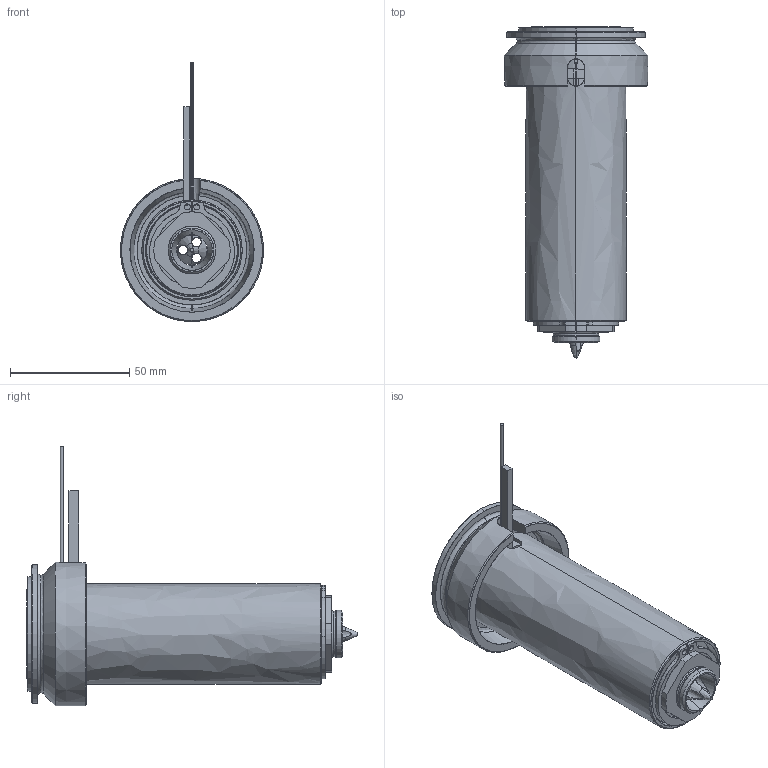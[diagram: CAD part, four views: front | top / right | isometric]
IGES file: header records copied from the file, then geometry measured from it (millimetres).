
Start section: SolidWorks IGES file using analytic representation for surfaces
Global section: file name: C:\Documents and Settings\ws-20\Desktop\TEM\UGEP6005-M-A-1 [Øf-1.3 ØC-16].IGS; native system: SolidWorks 2012; preprocessor: SolidWorks 2012; author: ws-20; date: 120427.094030; units: millimetre
Bounding box: 60 x 139.05 x 108.65 mm (x, y, z)
Surface area: 71858.2 mm2 (no closed solid volume)
Topology: 0 solids, 0 shells, 131 faces, 2313 edges, 2313 vertices
Faces by surface type: revolution 83, bspline 48
